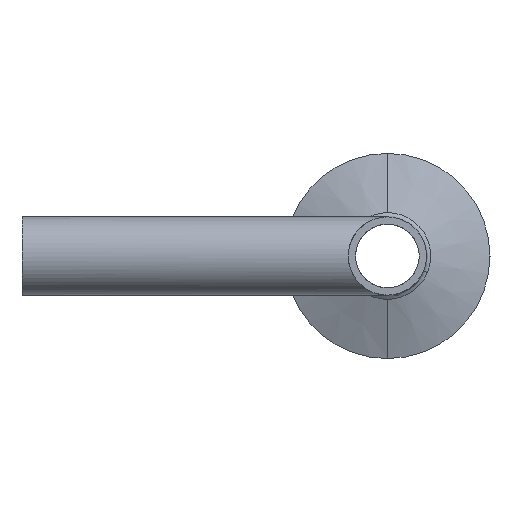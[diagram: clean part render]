
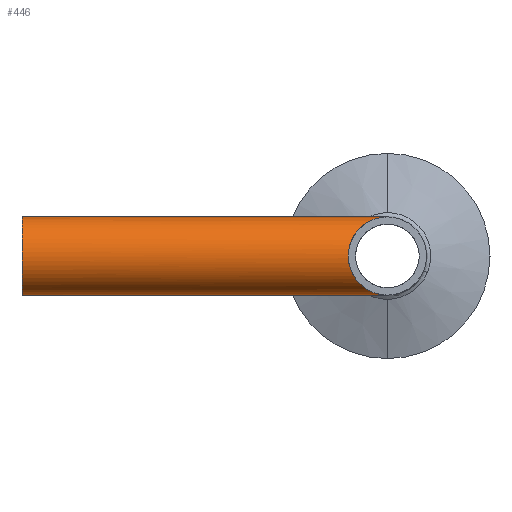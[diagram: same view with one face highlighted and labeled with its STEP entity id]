
A CAD part, left-side view. The second image highlights one B-rep face of the part: STEP entity #446.
In plain terms, the highlighted cylindrical face has radius 4.765 mm (diameter 9.53 mm), a partial arc.
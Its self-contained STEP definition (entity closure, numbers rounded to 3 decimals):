
#19 = VECTOR ( 'NONE', #230, 1000. ) ;
#22 =( BOUNDED_CURVE ( )  B_SPLINE_CURVE ( 3, ( #95, #186, #770, #764 ),
 .UNSPECIFIED., .F., .T. ) 
 B_SPLINE_CURVE_WITH_KNOTS ( ( 4, 4 ),
 ( 1.571, 4.712 ),
 .UNSPECIFIED. ) 
 CURVE ( )  GEOMETRIC_REPRESENTATION_ITEM ( )  RATIONAL_B_SPLINE_CURVE ( ( 1., 0.333, 0.333, 1. ) ) 
 REPRESENTATION_ITEM ( '' )  );
#95 = CARTESIAN_POINT ( 'NONE',  ( 0., 0., 4.765 ) ) ;
#105 = VERTEX_POINT ( 'NONE', #1355 ) ;
#186 = CARTESIAN_POINT ( 'NONE',  ( -9.53, 9.53, 4.765 ) ) ;
#191 = CARTESIAN_POINT ( 'NONE',  ( 0., 44.5, 4.765 ) ) ;
#230 = DIRECTION ( 'NONE',  ( 0., -1., 0. ) ) ;
#243 = CARTESIAN_POINT ( 'NONE',  ( 0., 44.5, -4.765 ) ) ;
#347 = VECTOR ( 'NONE', #628, 1000. ) ;
#359 = ORIENTED_EDGE ( 'NONE', *, *, #1200, .T. ) ;
#383 = ORIENTED_EDGE ( 'NONE', *, *, #1406, .T. ) ;
#386 = LINE ( 'NONE', #243, #19 ) ;
#446 = ADVANCED_FACE ( 'NONE', ( #1023 ), #1697, .T. ) ;
#480 = CARTESIAN_POINT ( 'NONE',  ( 0., 44.5, -4.765 ) ) ;
#520 = AXIS2_PLACEMENT_3D ( 'NONE', #775, #988, #1477 ) ;
#535 = CARTESIAN_POINT ( 'NONE',  ( -0.624, 44.5, 4.765 ) ) ;
#540 = CARTESIAN_POINT ( 'NONE',  ( -4.164, 44.5, -2.4 ) ) ;
#555 = CARTESIAN_POINT ( 'NONE',  ( -4.641, 44.5, 1.247 ) ) ;
#591 = CARTESIAN_POINT ( 'NONE',  ( 0., 44.5, 4.765 ) ) ;
#628 = DIRECTION ( 'NONE',  ( 0., -1., 0. ) ) ;
#668 = CARTESIAN_POINT ( 'NONE',  ( 0., 44.5, 4.765 ) ) ;
#698 = LINE ( 'NONE', #668, #347 ) ;
#764 = CARTESIAN_POINT ( 'NONE',  ( 0., 0., -4.765 ) ) ;
#770 = CARTESIAN_POINT ( 'NONE',  ( -9.53, 9.53, -4.765 ) ) ;
#775 = CARTESIAN_POINT ( 'NONE',  ( 0., 44.5, 0. ) ) ;
#826 = VERTEX_POINT ( 'NONE', #191 ) ;
#832 = B_SPLINE_CURVE_WITH_KNOTS ( 'NONE', 3,
 ( #591, #535, #1059, #1009, #1004, #919, #952, #555, #914, #1133, #1140, #540, #1512, #1566, #1016, #1608, #1617, #1645 ),
 .UNSPECIFIED., .F., .F.,
 ( 4, 2, 2, 2, 2, 2, 2, 2, 4 ),
 ( 0., 0.125, 0.25, 0.375, 0.5, 0.625, 0.75, 0.875, 1. ),
 .UNSPECIFIED. ) ;
#852 = VERTEX_POINT ( 'NONE', #480 ) ;
#914 = CARTESIAN_POINT ( 'NONE',  ( -4.765, 44.5, 0.624 ) ) ;
#919 = CARTESIAN_POINT ( 'NONE',  ( -3.81, 44.5, 2.928 ) ) ;
#952 = CARTESIAN_POINT ( 'NONE',  ( -4.164, 44.5, 2.4 ) ) ;
#988 = DIRECTION ( 'NONE',  ( 0., -1., 0. ) ) ;
#1004 = CARTESIAN_POINT ( 'NONE',  ( -2.928, 44.5, 3.81 ) ) ;
#1009 = CARTESIAN_POINT ( 'NONE',  ( -2.4, 44.5, 4.164 ) ) ;
#1016 = CARTESIAN_POINT ( 'NONE',  ( -2.4, 44.5, -4.164 ) ) ;
#1023 = FACE_OUTER_BOUND ( 'NONE', #1575, .T. ) ;
#1059 = CARTESIAN_POINT ( 'NONE',  ( -1.247, 44.5, 4.641 ) ) ;
#1060 = ORIENTED_EDGE ( 'NONE', *, *, #1343, .F. ) ;
#1133 = CARTESIAN_POINT ( 'NONE',  ( -4.765, 44.5, -0.624 ) ) ;
#1140 = CARTESIAN_POINT ( 'NONE',  ( -4.641, 44.5, -1.247 ) ) ;
#1200 = EDGE_CURVE ( 'NONE', #826, #852, #832, .T. ) ;
#1321 = EDGE_CURVE ( 'NONE', #1467, #105, #22, .T. ) ;
#1343 = EDGE_CURVE ( 'NONE', #826, #1467, #698, .T. ) ;
#1355 = CARTESIAN_POINT ( 'NONE',  ( 0., 0., -4.765 ) ) ;
#1406 = EDGE_CURVE ( 'NONE', #852, #105, #386, .T. ) ;
#1467 = VERTEX_POINT ( 'NONE', #1713 ) ;
#1477 = DIRECTION ( 'NONE',  ( 0., 0., -1. ) ) ;
#1512 = CARTESIAN_POINT ( 'NONE',  ( -3.81, 44.5, -2.928 ) ) ;
#1566 = CARTESIAN_POINT ( 'NONE',  ( -2.928, 44.5, -3.81 ) ) ;
#1575 = EDGE_LOOP ( 'NONE', ( #1060, #359, #383, #1662 ) ) ;
#1608 = CARTESIAN_POINT ( 'NONE',  ( -1.247, 44.5, -4.641 ) ) ;
#1617 = CARTESIAN_POINT ( 'NONE',  ( -0.624, 44.5, -4.765 ) ) ;
#1645 = CARTESIAN_POINT ( 'NONE',  ( 0., 44.5, -4.765 ) ) ;
#1662 = ORIENTED_EDGE ( 'NONE', *, *, #1321, .F. ) ;
#1697 = CYLINDRICAL_SURFACE ( 'NONE', #520, 4.765 ) ;
#1713 = CARTESIAN_POINT ( 'NONE',  ( 0., 0., 4.765 ) ) ;
